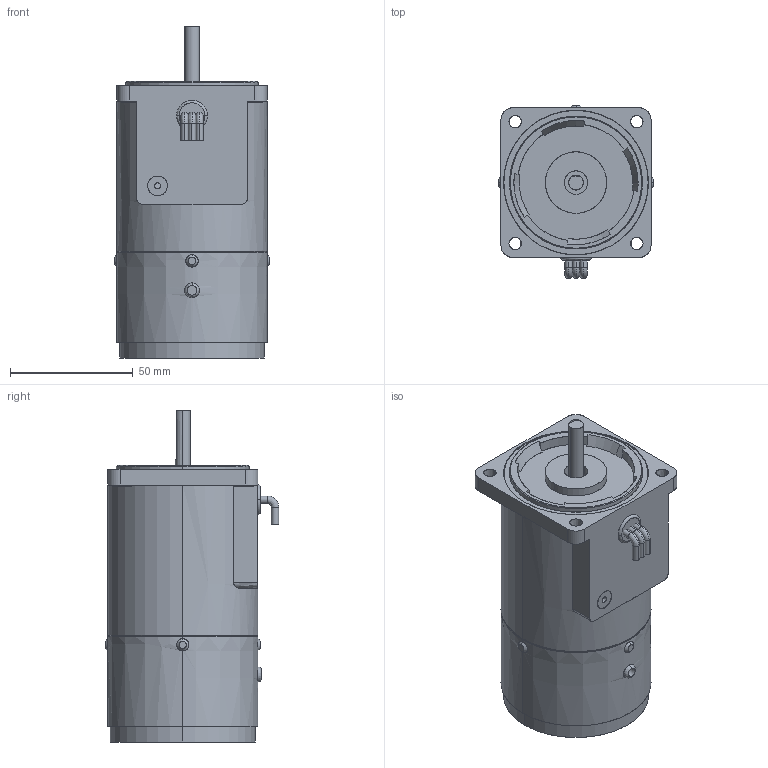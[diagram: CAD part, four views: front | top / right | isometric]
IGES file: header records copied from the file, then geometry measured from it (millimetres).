
Start section: SolidWorks IGES file using analytic representation for surfaces
Bounding box: 63 x 70.5 x 135 mm (x, y, z)
Surface area: 52394.9 mm2 (no closed solid volume)
Topology: 0 solids, 0 shells, 175 faces, 3494 edges, 3494 vertices
Faces by surface type: revolution 92, bspline 83
